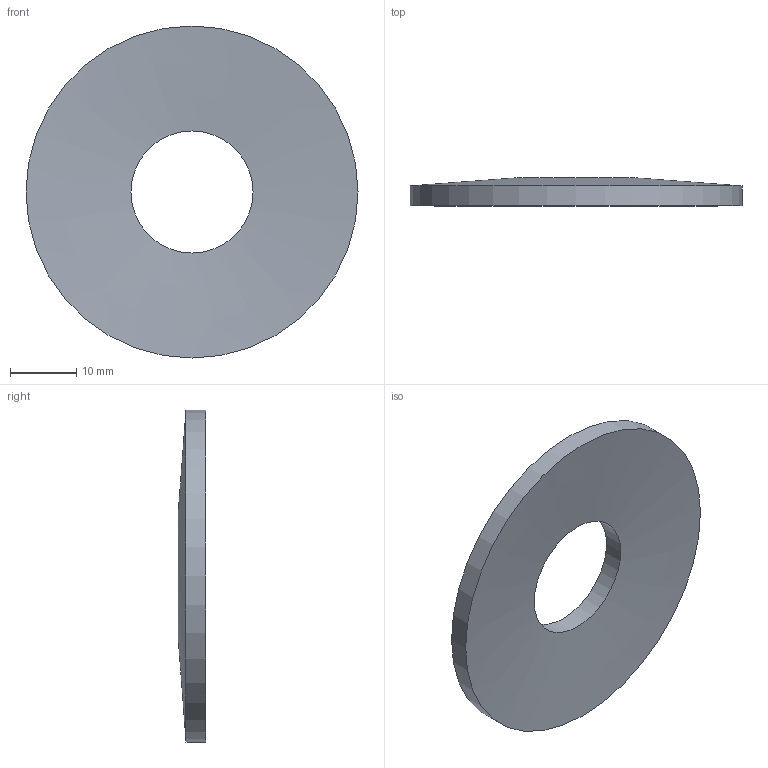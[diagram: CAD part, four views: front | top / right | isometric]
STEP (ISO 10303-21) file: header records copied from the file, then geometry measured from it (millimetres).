
FILE_DESCRIPTION(/* description */ ('11624N'),/* implementation_level */ '2;1');
FILE_NAME(/* name */ 'ST.0500.0184.0300.step',/* time_stamp */ '2026-09-18T10:31:15+02:00',/* author */ ('impex-ready.pl'),/* organization */ ('ST.0500.0184.0300'),/* preprocessor_version */ 'ST-DEVELOPER v20.1',/* originating_system */ 'Autodesk Inventor 2026',/* authorisation */ 'Ugiecie 0,75 h0 = 0.90');
FILE_SCHEMA (('AUTOMOTIVE_DESIGN { 1 0 10303 214 3 1 1 }'));
Length unit declared in the file: millimetre
Products named in the file (1): ST.0500.0184.0300
Bounding box: 50 x 4.2 x 50 mm (x, y, z)
Volume: 5107.2 mm3; surface area: 4051.3 mm2
Topology: 1 solids, 1 shells, 4 faces, 8 edges, 4 vertices
Faces by surface type: cone 2, cylinder 2
Full cylindrical faces by diameter (mm): 18.4 x1, 50 x1
Entity records: 151 total; most frequent: DIRECTION 22, CARTESIAN_POINT 17, ORIENTED_EDGE 16, AXIS2_PLACEMENT_3D 9, EDGE_CURVE 8, FACE_OUTER_BOUND 4, EDGE_LOOP 4, LINE 4
